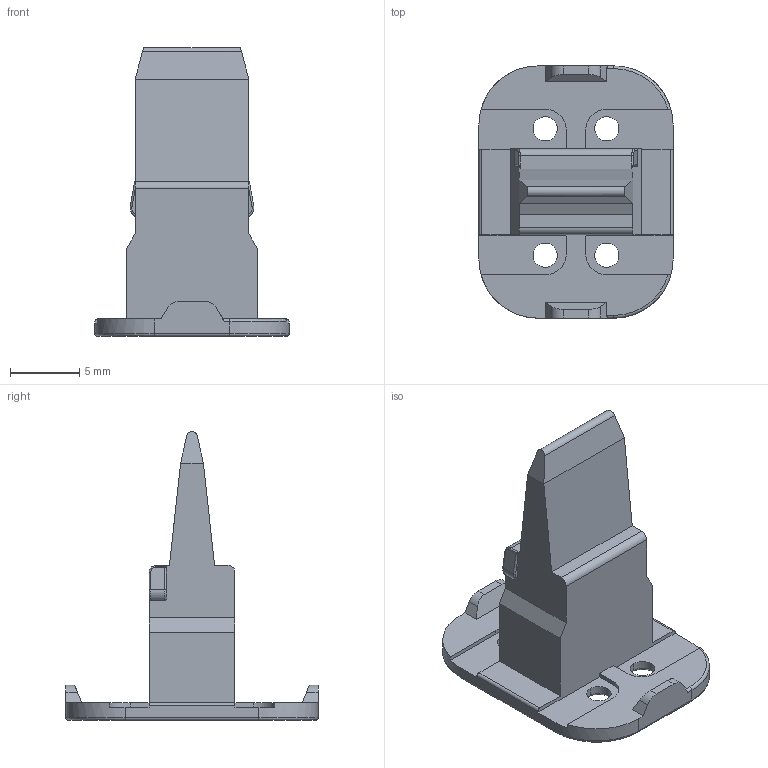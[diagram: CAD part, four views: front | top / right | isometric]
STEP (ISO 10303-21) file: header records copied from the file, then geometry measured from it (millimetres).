
FILE_DESCRIPTION((''),'2;1');
FILE_NAME('C-W4S-P012','2013-06-27T',('workeradm'),('Tyco Electronics Ltd.'),'PRO/ENGINEER BY PARAMETRIC TECHNOLOGY CORPORATION, 2011490','PRO/ENGINEER BY PARAMETRIC TECHNOLOGY CORPORATION, 2011490','');
FILE_SCHEMA(('AUTOMOTIVE_DESIGN { 1 0 10303 214 1 1 1 1 }'));
Length unit declared in the file: millimetre
Products named in the file (1): C-W4S-P012
Bounding box: 14 x 18.19 x 20.83 mm (x, y, z)
Volume: 972.2 mm3; surface area: 1056.4 mm2
Topology: 1 solids, 1 shells, 123 faces, 322 edges, 202 vertices
Faces by surface type: plane 54, cylinder 45, torus 12, cone 8, bspline 4
Entity records: 4642 total; most frequent: CARTESIAN_POINT 1283, ORIENTED_EDGE 644, DIRECTION 618, EDGE_CURVE 322, AXIS2_PLACEMENT_3D 211, VERTEX_POINT 202, VECTOR 196, LINE 196
